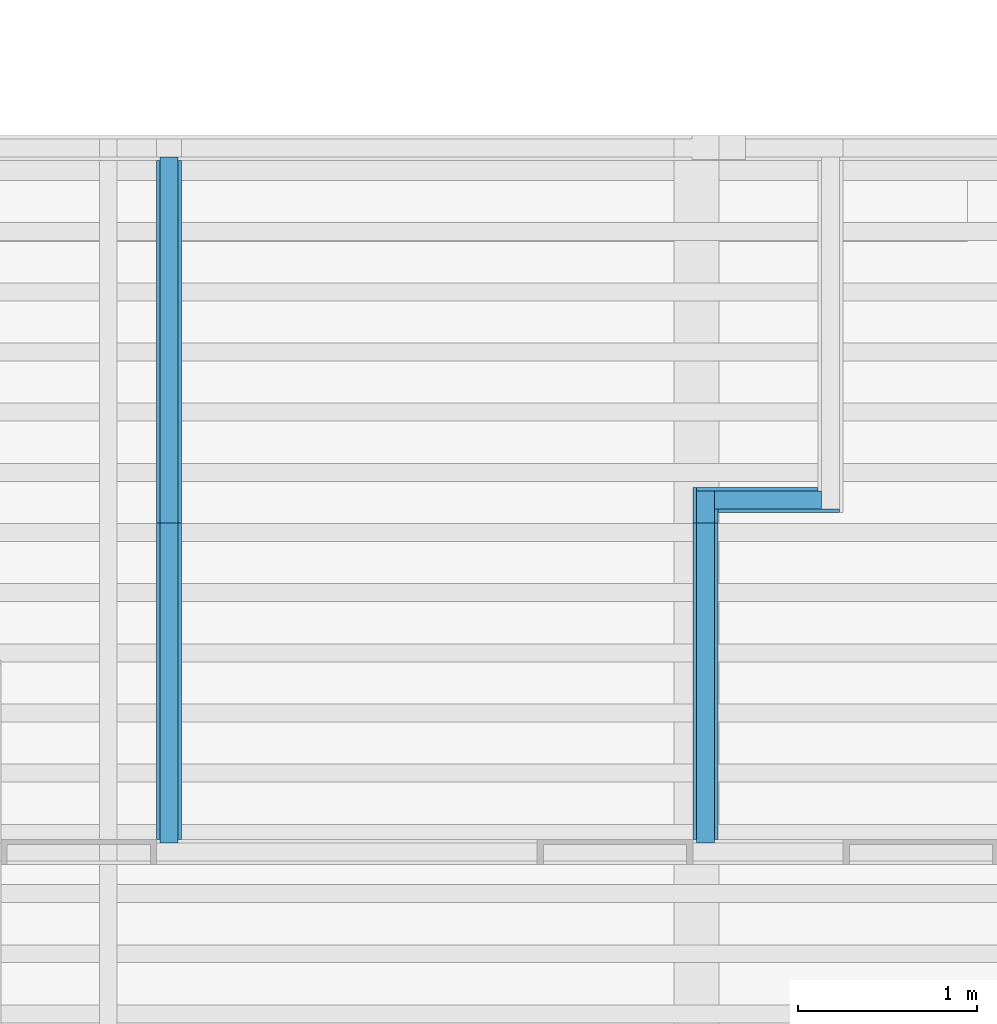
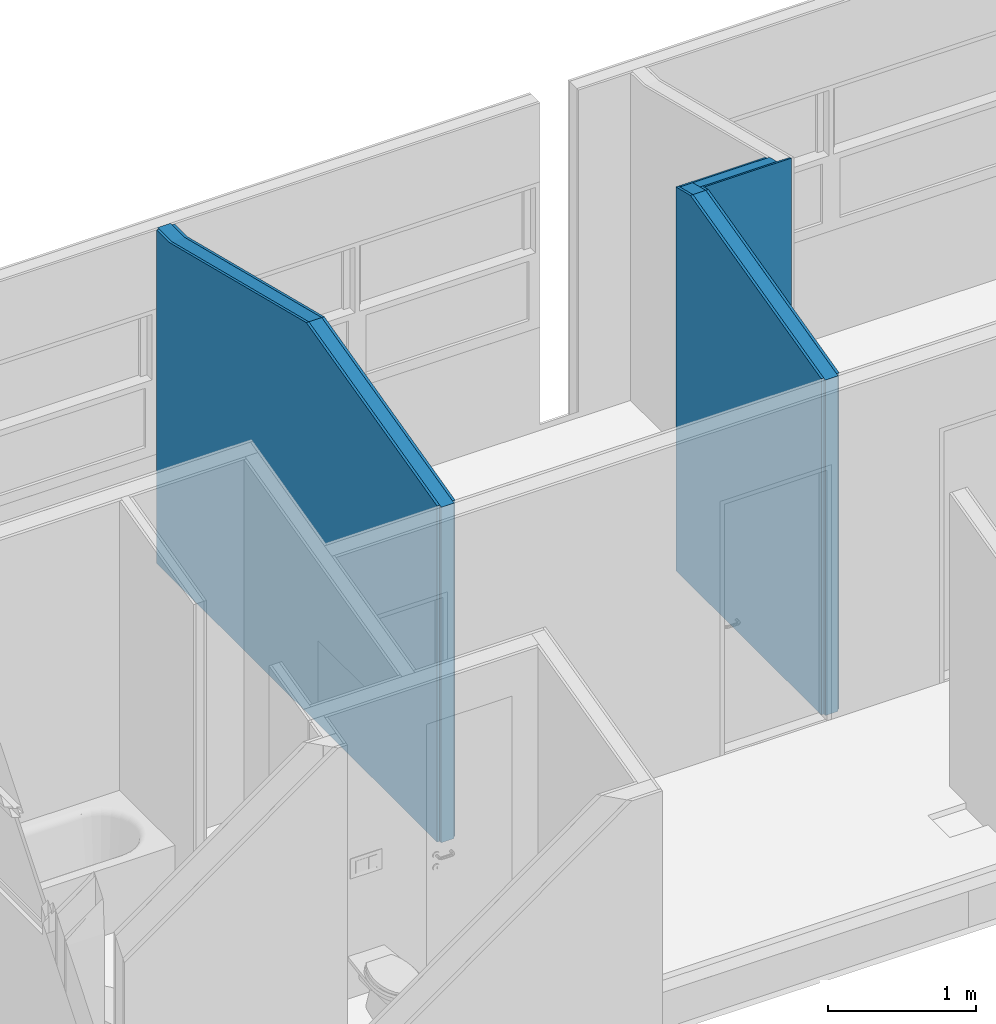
# One storey, part 10 of 13: 9 building element parts, 3 elements without a shape of their own.
"""IFC2X3 building model written with IfcOpenShell, lengths in millimetres."""

from ifc_helpers import new_model, entity, si_unit, converted_unit, derived_unit, money_unit, direction, frame, origin_with_axes, place, context, subcontext, project, spatial, polyline, outline, extrude, boolean, faceted_brep, material, type_object, element, aggregate, save


model = new_model("IFC2X3")

# Units and contexts
model_context = context("Model", 3, precision=0.01, world=origin_with_axes(), true_north=direction((0.293984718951, 0.955810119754)))
body_context = subcontext(model_context, "Body", "Model", "MODEL_VIEW")
ifc_project = project(units=[si_unit("LENGTHUNIT", "METRE", prefix="MILLI"), si_unit("AREAUNIT", "SQUARE_METRE"), si_unit("VOLUMEUNIT", "CUBIC_METRE"), converted_unit("PLANEANGLEUNIT", "DEGREE", entity("IfcPlaneAngleMeasure", 0.0174532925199), si_unit("PLANEANGLEUNIT", "RADIAN"), dimensions=[0, 0, 0, 0, 0, 0, 0]), si_unit("SOLIDANGLEUNIT", "STERADIAN"), money_unit("USD"), converted_unit("TIMEUNIT", "Year", entity("IfcTimeMeasure", 31556926.0), si_unit("TIMEUNIT", "SECOND"), dimensions=[0, 0, 1, 0, 0, 0, 0]), si_unit("MASSUNIT", "GRAM", prefix="KILO"), si_unit("THERMODYNAMICTEMPERATUREUNIT", "DEGREE_CELSIUS"), si_unit("LUMINOUSINTENSITYUNIT", "LUMEN"), si_unit("ENERGYUNIT", "JOULE", prefix="MEGA"), derived_unit("THERMALCONDUCTANCEUNIT", [(si_unit("POWERUNIT", "WATT"), 1), (si_unit("LENGTHUNIT", "METRE"), -1), (si_unit("THERMODYNAMICTEMPERATUREUNIT", "KELVIN"), -1)]), derived_unit("SPECIFICHEATCAPACITYUNIT", [(si_unit("ENERGYUNIT", "JOULE"), 1), (si_unit("MASSUNIT", "GRAM", prefix="KILO"), -1), (si_unit("THERMODYNAMICTEMPERATUREUNIT", "KELVIN"), -1)]), derived_unit("MASSDENSITYUNIT", [(si_unit("MASSUNIT", "GRAM", prefix="KILO"), 1), (si_unit("VOLUMEUNIT", "CUBIC_METRE"), -1)])], contexts=[model_context])

# Site, building, storey
site_placement = place(None, origin_with_axes())
site = spatial("IfcSite", under=ifc_project, at=site_placement, Name="Local", CompositionType="ELEMENT")
building_placement = place(site_placement, origin_with_axes())
building = spatial("IfcBuilding", under=site, at=building_placement, Name="Construção", CompositionType="ELEMENT")
storey_placement = place(building_placement, frame((0.0, 0.0, 3050.0), z_axis=(0.0, 0.0, 1.0), x_axis=(1.0, 0.0, 0.0)))
storey = spatial("IfcBuildingStorey", under=building, at=storey_placement, Name="Primeiro Pavimento", CompositionType="ELEMENT", Elevation=3050.0)

# Wall, building element parts
wall_type = type_object("IfcWallType", Name="Alvenaria Tijolo Maciço com Revestimento 14cm 140", PredefinedType="NOTDEFINED")
wall_1_placement = place(storey_placement, frame((10759.6450727, 12950.6321979, 0.0), z_axis=(0.0, 0.0, 1.0), x_axis=(0.0, -1.0, 0.0)))
wall_1 = element("IfcWall", 1, at=wall_1_placement, inside=storey, type_object=wall_type, Name="Parede")
ifc_material_1 = material(Name="Reboco (1)")
building_element_part_1_placement = place(wall_1_placement, origin_with_axes())
building_element_part_1 = element("IfcBuildingElementPart", 2, at=building_element_part_1_placement, material=ifc_material_1, Name="Reboco (1)", context=body_context, shape_type="CSG", body=[
    boolean("DIFFERENCE", boolean("DIFFERENCE", boolean("DIFFERENCE", extrude(outline(polyline([(-2.46913600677e-10, -70.0), (4070.00000001, -70.0), (4070.00000001, -50.0), (-2.46913600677e-10, -50.0), (-2.46913600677e-10, -70.0)])), origin_with_axes(), (0.0, 0.0, 1.0), 3211.87314734), faceted_brep([(2163.32569915, -49.9999999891, 3211.87314734), (310.825699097, -49.9999999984, 2749.9930219), (140.0, -49.9999999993, 2749.99302172), (140.0, -49.9999999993, 0.0), (-2.48689957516e-10, -50.0, 0.0), (-2.48689957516e-10, -50.0, 3211.87314734), (2163.32569915, -69.9999999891, 3211.87314734), (310.825699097, -69.9999999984, 2749.9930219), (140.0, -69.9999999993, 2749.99302172), (140.0, -69.9999999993, 0.0), (-2.46913600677e-10, -70.0, 0.0), (-2.46913600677e-10, -70.0, 3211.87314734), (4070.00000001, -70.0, 3211.87314734), (4070.00000001, -50.0, 3211.87314734), (3930.00000001, -69.9999999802, 2771.39177223), (3930.00000001, -49.9999999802, 2771.39177223), (3930.00000001, -69.9999999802, 0.0), (4070.00000001, -70.0, 0.0), (4070.00000001, -50.0, 0.0), (3930.00000001, -49.9999999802, 0.0)], [[[0, 1, 2, 3, 4, 5]], [[6, 7, 1, 0]], [[7, 8, 2, 1]], [[3, 2, 8, 9]], [[3, 9, 10, 4]], [[5, 4, 10, 11]], [[5, 11, 6, 12, 13, 0]], [[7, 6, 11, 10, 9, 8]], [[14, 6, 0, 15]], [[14, 16, 17, 12, 6]], [[12, 17, 18, 13]], [[15, 0, 13, 18, 19]], [[15, 19, 16, 14]], [[16, 19, 18, 17]]])), faceted_brep([(310.825699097, 50.0000000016, 2749.9930219), (120.0, 50.0000000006, 2749.99302172), (120.0, 50.0000000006, 0.0), (-2.48689957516e-10, 50.0, 0.0), (-2.48689957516e-10, 50.0, 3211.87314734), (2163.32569915, 50.0000000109, 3211.87314734), (310.825699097, -49.9999999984, 2749.9930219), (120.0, -49.9999999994, 2749.99302172), (120.0, -49.9999999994, 0.0), (-2.48689957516e-10, -50.0, 0.0), (-2.48689957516e-10, -50.0, 3211.87314734), (2163.32569915, -49.9999999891, 3211.87314734), (4070.00000001, -50.0, 3211.87314734), (4070.00000001, 50.0, 3211.87314734), (3950.00000001, -49.9999999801, 2766.40521217), (3950.00000001, -49.9999999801, 0.0), (4070.00000001, -50.0, 0.0), (4070.00000001, 50.0, 0.0), (3950.00000001, 50.0000000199, 2766.40521217), (3950.00000001, 50.0000000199, 0.0)], [[[0, 1, 2, 3, 4, 5]], [[1, 0, 6, 7]], [[2, 1, 7, 8]], [[2, 8, 9, 3]], [[4, 3, 9, 10]], [[4, 10, 11, 12, 13, 5]], [[6, 0, 5, 11]], [[6, 11, 10, 9, 8, 7]], [[14, 15, 16, 12, 11]], [[12, 16, 17, 13]], [[18, 5, 13, 17, 19]], [[18, 14, 11, 5]], [[18, 19, 15, 14]], [[15, 19, 17, 16]]])), faceted_brep([(2163.32569915, 70.0000000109, 3211.87314734), (310.825699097, 70.0000000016, 2749.9930219), (140.0, 70.0000000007, 2749.99302172), (140.0, 70.0000000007, 0.0), (-2.50466314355e-10, 70.0, 0.0), (-2.50466314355e-10, 70.0, 3211.87314734), (2163.32569915, 50.0000000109, 3211.87314734), (310.825699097, 50.0000000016, 2749.9930219), (140.0, 50.0000000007, 2749.99302174), (140.0, 50.0000000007, 0.0), (-2.48689957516e-10, 50.0, 0.0), (-2.48689957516e-10, 50.0, 3211.87314734), (4070.00000001, 50.0, 3211.87314734), (4070.00000001, 70.0, 3211.87314734), (3930.00000001, 70.0000000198, 2771.39177223), (3930.00000001, 50.0000000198, 2771.39177223), (3930.00000001, 50.0000000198, 0.0), (4070.00000001, 50.0, 0.0), (4070.00000001, 70.0, 0.0), (3930.00000001, 70.0000000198, 0.0)], [[[0, 1, 2, 3, 4, 5]], [[1, 0, 6, 7]], [[2, 1, 7, 8]], [[3, 2, 8, 9]], [[3, 9, 10, 4]], [[5, 4, 10, 11]], [[5, 11, 6, 12, 13, 0]], [[0, 14, 15, 6]], [[7, 6, 11, 10, 9, 8]], [[15, 16, 17, 12, 6]], [[12, 17, 18, 13]], [[14, 0, 13, 18, 19]], [[14, 19, 16, 15]], [[16, 19, 18, 17]]])),
])
ifc_material_2 = material(Name="Tijolo - Estrutural (1)")
building_element_part_2_placement = place(wall_1_placement, origin_with_axes())
building_element_part_2 = element("IfcBuildingElementPart", 3, at=building_element_part_2_placement, material=ifc_material_2, Name="Tijolo - Estrutural (1)", context=body_context, shape_type="CSG", body=[
    boolean("DIFFERENCE", boolean("DIFFERENCE", boolean("DIFFERENCE", extrude(outline(polyline([(-2.46913600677e-10, -50.0), (4070.00000001, -50.0), (4070.00000001, 50.0), (-2.48689957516e-10, 50.0), (-2.46913600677e-10, -50.0)])), origin_with_axes(), (0.0, 0.0, 1.0), 3211.87314734), faceted_brep([(2163.32569915, -49.9999999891, 3211.87314734), (310.825699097, -49.9999999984, 2749.9930219), (140.0, -49.9999999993, 2749.99302172), (140.0, -49.9999999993, 0.0), (-2.48689957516e-10, -50.0, 0.0), (-2.48689957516e-10, -50.0, 3211.87314734), (2163.32569915, -69.9999999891, 3211.87314734), (310.825699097, -69.9999999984, 2749.9930219), (140.0, -69.9999999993, 2749.99302172), (140.0, -69.9999999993, 0.0), (-2.46913600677e-10, -70.0, 0.0), (-2.46913600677e-10, -70.0, 3211.87314734), (4070.00000001, -70.0, 3211.87314734), (4070.00000001, -50.0, 3211.87314734), (3930.00000001, -69.9999999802, 2771.39177223), (3930.00000001, -49.9999999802, 2771.39177223), (3930.00000001, -69.9999999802, 0.0), (4070.00000001, -70.0, 0.0), (4070.00000001, -50.0, 0.0), (3930.00000001, -49.9999999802, 0.0)], [[[0, 1, 2, 3, 4, 5]], [[6, 7, 1, 0]], [[7, 8, 2, 1]], [[3, 2, 8, 9]], [[3, 9, 10, 4]], [[5, 4, 10, 11]], [[5, 11, 6, 12, 13, 0]], [[7, 6, 11, 10, 9, 8]], [[14, 6, 0, 15]], [[14, 16, 17, 12, 6]], [[12, 17, 18, 13]], [[15, 0, 13, 18, 19]], [[15, 19, 16, 14]], [[16, 19, 18, 17]]])), faceted_brep([(310.825699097, 50.0000000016, 2749.9930219), (120.0, 50.0000000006, 2749.99302172), (120.0, 50.0000000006, 0.0), (-2.48689957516e-10, 50.0, 0.0), (-2.48689957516e-10, 50.0, 3211.87314734), (2163.32569915, 50.0000000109, 3211.87314734), (310.825699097, -49.9999999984, 2749.9930219), (120.0, -49.9999999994, 2749.99302172), (120.0, -49.9999999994, 0.0), (-2.48689957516e-10, -50.0, 0.0), (-2.48689957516e-10, -50.0, 3211.87314734), (2163.32569915, -49.9999999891, 3211.87314734), (4070.00000001, -50.0, 3211.87314734), (4070.00000001, 50.0, 3211.87314734), (3950.00000001, -49.9999999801, 2766.40521217), (3950.00000001, -49.9999999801, 0.0), (4070.00000001, -50.0, 0.0), (4070.00000001, 50.0, 0.0), (3950.00000001, 50.0000000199, 2766.40521217), (3950.00000001, 50.0000000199, 0.0)], [[[0, 1, 2, 3, 4, 5]], [[1, 0, 6, 7]], [[2, 1, 7, 8]], [[2, 8, 9, 3]], [[4, 3, 9, 10]], [[4, 10, 11, 12, 13, 5]], [[6, 0, 5, 11]], [[6, 11, 10, 9, 8, 7]], [[14, 15, 16, 12, 11]], [[12, 16, 17, 13]], [[18, 5, 13, 17, 19]], [[18, 14, 11, 5]], [[18, 19, 15, 14]], [[15, 19, 17, 16]]])), faceted_brep([(2163.32569915, 70.0000000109, 3211.87314734), (310.825699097, 70.0000000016, 2749.9930219), (140.0, 70.0000000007, 2749.99302172), (140.0, 70.0000000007, 0.0), (-2.50466314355e-10, 70.0, 0.0), (-2.50466314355e-10, 70.0, 3211.87314734), (2163.32569915, 50.0000000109, 3211.87314734), (310.825699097, 50.0000000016, 2749.9930219), (140.0, 50.0000000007, 2749.99302174), (140.0, 50.0000000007, 0.0), (-2.48689957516e-10, 50.0, 0.0), (-2.48689957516e-10, 50.0, 3211.87314734), (4070.00000001, 50.0, 3211.87314734), (4070.00000001, 70.0, 3211.87314734), (3930.00000001, 70.0000000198, 2771.39177223), (3930.00000001, 50.0000000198, 2771.39177223), (3930.00000001, 50.0000000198, 0.0), (4070.00000001, 50.0, 0.0), (4070.00000001, 70.0, 0.0), (3930.00000001, 70.0000000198, 0.0)], [[[0, 1, 2, 3, 4, 5]], [[1, 0, 6, 7]], [[2, 1, 7, 8]], [[3, 2, 8, 9]], [[3, 9, 10, 4]], [[5, 4, 10, 11]], [[5, 11, 6, 12, 13, 0]], [[0, 14, 15, 6]], [[7, 6, 11, 10, 9, 8]], [[15, 16, 17, 12, 6]], [[12, 17, 18, 13]], [[14, 0, 13, 18, 19]], [[14, 19, 16, 15]], [[16, 19, 18, 17]]])),
])
building_element_part_3_placement = place(wall_1_placement, origin_with_axes())
building_element_part_3 = element("IfcBuildingElementPart", 4, at=building_element_part_3_placement, material=ifc_material_1, Name="Reboco (1)", context=body_context, shape_type="CSG", body=[
    boolean("DIFFERENCE", boolean("DIFFERENCE", boolean("DIFFERENCE", extrude(outline(polyline([(-2.48689957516e-10, 50.0), (4070.00000001, 50.0), (4070.00000001, 70.0), (-2.48689957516e-10, 70.0), (-2.48689957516e-10, 50.0)])), origin_with_axes(), (0.0, 0.0, 1.0), 3211.87314734), faceted_brep([(2163.32569915, -49.9999999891, 3211.87314734), (310.825699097, -49.9999999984, 2749.9930219), (140.0, -49.9999999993, 2749.99302172), (140.0, -49.9999999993, 0.0), (-2.48689957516e-10, -50.0, 0.0), (-2.48689957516e-10, -50.0, 3211.87314734), (2163.32569915, -69.9999999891, 3211.87314734), (310.825699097, -69.9999999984, 2749.9930219), (140.0, -69.9999999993, 2749.99302172), (140.0, -69.9999999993, 0.0), (-2.46913600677e-10, -70.0, 0.0), (-2.46913600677e-10, -70.0, 3211.87314734), (4070.00000001, -70.0, 3211.87314734), (4070.00000001, -50.0, 3211.87314734), (3930.00000001, -69.9999999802, 2771.39177223), (3930.00000001, -49.9999999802, 2771.39177223), (3930.00000001, -69.9999999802, 0.0), (4070.00000001, -70.0, 0.0), (4070.00000001, -50.0, 0.0), (3930.00000001, -49.9999999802, 0.0)], [[[0, 1, 2, 3, 4, 5]], [[6, 7, 1, 0]], [[7, 8, 2, 1]], [[3, 2, 8, 9]], [[3, 9, 10, 4]], [[5, 4, 10, 11]], [[5, 11, 6, 12, 13, 0]], [[7, 6, 11, 10, 9, 8]], [[14, 6, 0, 15]], [[14, 16, 17, 12, 6]], [[12, 17, 18, 13]], [[15, 0, 13, 18, 19]], [[15, 19, 16, 14]], [[16, 19, 18, 17]]])), faceted_brep([(310.825699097, 50.0000000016, 2749.9930219), (120.0, 50.0000000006, 2749.99302172), (120.0, 50.0000000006, 0.0), (-2.48689957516e-10, 50.0, 0.0), (-2.48689957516e-10, 50.0, 3211.87314734), (2163.32569915, 50.0000000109, 3211.87314734), (310.825699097, -49.9999999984, 2749.9930219), (120.0, -49.9999999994, 2749.99302172), (120.0, -49.9999999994, 0.0), (-2.48689957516e-10, -50.0, 0.0), (-2.48689957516e-10, -50.0, 3211.87314734), (2163.32569915, -49.9999999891, 3211.87314734), (4070.00000001, -50.0, 3211.87314734), (4070.00000001, 50.0, 3211.87314734), (3950.00000001, -49.9999999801, 2766.40521217), (3950.00000001, -49.9999999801, 0.0), (4070.00000001, -50.0, 0.0), (4070.00000001, 50.0, 0.0), (3950.00000001, 50.0000000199, 2766.40521217), (3950.00000001, 50.0000000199, 0.0)], [[[0, 1, 2, 3, 4, 5]], [[1, 0, 6, 7]], [[2, 1, 7, 8]], [[2, 8, 9, 3]], [[4, 3, 9, 10]], [[4, 10, 11, 12, 13, 5]], [[6, 0, 5, 11]], [[6, 11, 10, 9, 8, 7]], [[14, 15, 16, 12, 11]], [[12, 16, 17, 13]], [[18, 5, 13, 17, 19]], [[18, 14, 11, 5]], [[18, 19, 15, 14]], [[15, 19, 17, 16]]])), faceted_brep([(2163.32569915, 70.0000000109, 3211.87314734), (310.825699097, 70.0000000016, 2749.9930219), (140.0, 70.0000000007, 2749.99302172), (140.0, 70.0000000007, 0.0), (-2.50466314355e-10, 70.0, 0.0), (-2.50466314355e-10, 70.0, 3211.87314734), (2163.32569915, 50.0000000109, 3211.87314734), (310.825699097, 50.0000000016, 2749.9930219), (140.0, 50.0000000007, 2749.99302174), (140.0, 50.0000000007, 0.0), (-2.48689957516e-10, 50.0, 0.0), (-2.48689957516e-10, 50.0, 3211.87314734), (4070.00000001, 50.0, 3211.87314734), (4070.00000001, 70.0, 3211.87314734), (3930.00000001, 70.0000000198, 2771.39177223), (3930.00000001, 50.0000000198, 2771.39177223), (3930.00000001, 50.0000000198, 0.0), (4070.00000001, 50.0, 0.0), (4070.00000001, 70.0, 0.0), (3930.00000001, 70.0000000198, 0.0)], [[[0, 1, 2, 3, 4, 5]], [[1, 0, 6, 7]], [[2, 1, 7, 8]], [[3, 2, 8, 9]], [[3, 9, 10, 4]], [[5, 4, 10, 11]], [[5, 11, 6, 12, 13, 0]], [[0, 14, 15, 6]], [[7, 6, 11, 10, 9, 8]], [[15, 16, 17, 12, 6]], [[12, 17, 18, 13]], [[14, 0, 13, 18, 19]], [[14, 19, 16, 15]], [[16, 19, 18, 17]]])),
])
aggregate(wall_1, [building_element_part_1, building_element_part_2, building_element_part_3])

wall_2_placement = place(storey_placement, frame((13754.6450727, 10915.6321979, 0.0), z_axis=(0.0, 0.0, 1.0), x_axis=(0.0, -1.0, 0.0)))
wall_2 = element("IfcWall", 5, at=wall_2_placement, inside=storey, type_object=wall_type, Name="Parede")
building_element_part_4_placement = place(wall_2_placement, origin_with_axes())
building_element_part_4 = element("IfcBuildingElementPart", 6, at=building_element_part_4_placement, material=ifc_material_1, Name="Reboco (1)", context=body_context, shape_type="CSG", body=[
    boolean("DIFFERENCE", boolean("DIFFERENCE", boolean("DIFFERENCE", extrude(outline(polyline([(-70.0, -70.0), (2035.0, -70.0), (2035.0, -50.0), (-70.0, -50.0), (-70.0, -70.0)])), origin_with_axes(), (0.0, 0.0, 1.0), 3211.87314734), faceted_brep([(128.325699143, -50.0, 3211.87314734), (-70.0, -50.0, 3162.42499686), (-70.0, -50.0, 3211.87314734), (-70.0, -70.0, 3162.42499686), (128.325699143, -70.0, 3211.87314734), (-70.0, -70.0, 3211.87314734), (2035.0, -70.0, 3211.87314734), (2035.0, -50.0, 3211.87314734), (1895.0, -70.0, 2771.39177223), (1895.0, -50.0, 2771.39177223), (1895.0, -70.0, 0.0), (2035.0, -70.0, 0.0), (2035.0, -50.0, 0.0), (1895.0, -50.0, 0.0)], [[[0, 1, 2]], [[3, 1, 0, 4]], [[1, 3, 5, 2]], [[2, 5, 4, 6, 7, 0]], [[8, 4, 0, 9]], [[3, 4, 5]], [[8, 10, 11, 6, 4]], [[6, 11, 12, 7]], [[9, 0, 7, 12, 13]], [[9, 13, 10, 8]], [[10, 13, 12, 11]]])), faceted_brep([(128.325699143, 50.0, 3211.87314734), (-50.0, 50.0, 3167.41155691), (-50.0, 50.0, 0.0), (-70.0, 50.0, 0.0), (-70.0, 50.0, 3211.87314734), (128.325699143, -50.0, 3211.87314734), (-50.0, -50.0, 3167.41155691), (-50.0, -50.0, 0.0), (-70.0, -50.0, 0.0), (-70.0, -50.0, 3211.87314734), (2035.0, -50.0, 3211.87314734), (2035.0, 50.0, 3211.87314734), (1915.0, 50.0, 2766.40521217), (1915.0, -50.0, 2766.40521217), (1915.0, -50.0, 0.0), (2035.0, -50.0, 0.0), (2035.0, 50.0, 0.0), (1915.0, 50.0, 0.0)], [[[0, 1, 2, 3, 4]], [[1, 0, 5, 6]], [[2, 1, 6, 7]], [[2, 7, 8, 3]], [[4, 3, 8, 9]], [[4, 9, 5, 10, 11, 0]], [[12, 13, 5, 0]], [[6, 5, 9, 8, 7]], [[13, 14, 15, 10, 5]], [[10, 15, 16, 11]], [[12, 0, 11, 16, 17]], [[12, 17, 14, 13]], [[14, 17, 16, 15]]])), faceted_brep([(50.0, 70.0, 3192.3443572), (50.0, 70.0, 0.0), (-70.0, 70.0, 0.0), (-70.0, 70.0, 3211.87314734), (128.325699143, 70.0, 3211.87314734), (50.0, 50.0, 3192.3443572), (50.0, 50.0, 0.0), (-70.0, 50.0, 0.0), (-70.0, 50.0, 3211.87314734), (128.325699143, 50.0, 3211.87314734), (2035.0, 50.0, 3211.87314734), (2035.0, 70.0, 3211.87314734), (1895.0, 50.0, 2771.39177223), (1895.0, 50.0, 0.0), (2035.0, 50.0, 0.0), (2035.0, 70.0, 0.0), (1895.0, 70.0, 2771.39177223), (1895.0, 70.0, 0.0)], [[[0, 1, 2, 3, 4]], [[1, 0, 5, 6]], [[1, 6, 7, 2]], [[3, 2, 7, 8]], [[3, 8, 9, 10, 11, 4]], [[0, 4, 9, 5]], [[5, 9, 8, 7, 6]], [[12, 13, 14, 10, 9]], [[10, 14, 15, 11]], [[16, 4, 11, 15, 17]], [[4, 16, 12, 9]], [[16, 17, 13, 12]], [[13, 17, 15, 14]]])),
])
building_element_part_5_placement = place(wall_2_placement, origin_with_axes())
building_element_part_5 = element("IfcBuildingElementPart", 7, at=building_element_part_5_placement, material=ifc_material_2, Name="Tijolo - Estrutural (1)", context=body_context, shape_type="CSG", body=[
    boolean("DIFFERENCE", boolean("DIFFERENCE", boolean("DIFFERENCE", extrude(outline(polyline([(-70.0, -50.0), (2035.0, -50.0), (2035.0, 50.0), (-70.0, 50.0), (-70.0, -50.0)])), origin_with_axes(), (0.0, 0.0, 1.0), 3211.87314734), faceted_brep([(128.325699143, -50.0, 3211.87314734), (-70.0, -50.0, 3162.42499686), (-70.0, -50.0, 3211.87314734), (-70.0, -70.0, 3162.42499686), (128.325699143, -70.0, 3211.87314734), (-70.0, -70.0, 3211.87314734), (2035.0, -70.0, 3211.87314734), (2035.0, -50.0, 3211.87314734), (1895.0, -70.0, 2771.39177223), (1895.0, -50.0, 2771.39177223), (1895.0, -70.0, 0.0), (2035.0, -70.0, 0.0), (2035.0, -50.0, 0.0), (1895.0, -50.0, 0.0)], [[[0, 1, 2]], [[3, 1, 0, 4]], [[1, 3, 5, 2]], [[2, 5, 4, 6, 7, 0]], [[8, 4, 0, 9]], [[3, 4, 5]], [[8, 10, 11, 6, 4]], [[6, 11, 12, 7]], [[9, 0, 7, 12, 13]], [[9, 13, 10, 8]], [[10, 13, 12, 11]]])), faceted_brep([(128.325699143, 50.0, 3211.87314734), (-50.0, 50.0, 3167.41155691), (-50.0, 50.0, 0.0), (-70.0, 50.0, 0.0), (-70.0, 50.0, 3211.87314734), (128.325699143, -50.0, 3211.87314734), (-50.0, -50.0, 3167.41155691), (-50.0, -50.0, 0.0), (-70.0, -50.0, 0.0), (-70.0, -50.0, 3211.87314734), (2035.0, -50.0, 3211.87314734), (2035.0, 50.0, 3211.87314734), (1915.0, 50.0, 2766.40521217), (1915.0, -50.0, 2766.40521217), (1915.0, -50.0, 0.0), (2035.0, -50.0, 0.0), (2035.0, 50.0, 0.0), (1915.0, 50.0, 0.0)], [[[0, 1, 2, 3, 4]], [[1, 0, 5, 6]], [[2, 1, 6, 7]], [[2, 7, 8, 3]], [[4, 3, 8, 9]], [[4, 9, 5, 10, 11, 0]], [[12, 13, 5, 0]], [[6, 5, 9, 8, 7]], [[13, 14, 15, 10, 5]], [[10, 15, 16, 11]], [[12, 0, 11, 16, 17]], [[12, 17, 14, 13]], [[14, 17, 16, 15]]])), faceted_brep([(50.0, 70.0, 3192.3443572), (50.0, 70.0, 0.0), (-70.0, 70.0, 0.0), (-70.0, 70.0, 3211.87314734), (128.325699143, 70.0, 3211.87314734), (50.0, 50.0, 3192.3443572), (50.0, 50.0, 0.0), (-70.0, 50.0, 0.0), (-70.0, 50.0, 3211.87314734), (128.325699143, 50.0, 3211.87314734), (2035.0, 50.0, 3211.87314734), (2035.0, 70.0, 3211.87314734), (1895.0, 50.0, 2771.39177223), (1895.0, 50.0, 0.0), (2035.0, 50.0, 0.0), (2035.0, 70.0, 0.0), (1895.0, 70.0, 2771.39177223), (1895.0, 70.0, 0.0)], [[[0, 1, 2, 3, 4]], [[1, 0, 5, 6]], [[1, 6, 7, 2]], [[3, 2, 7, 8]], [[3, 8, 9, 10, 11, 4]], [[0, 4, 9, 5]], [[5, 9, 8, 7, 6]], [[12, 13, 14, 10, 9]], [[10, 14, 15, 11]], [[16, 4, 11, 15, 17]], [[4, 16, 12, 9]], [[16, 17, 13, 12]], [[13, 17, 15, 14]]])),
])
building_element_part_6_placement = place(wall_2_placement, origin_with_axes())
building_element_part_6 = element("IfcBuildingElementPart", 8, at=building_element_part_6_placement, material=ifc_material_1, Name="Reboco (1)", context=body_context, shape_type="CSG", body=[
    boolean("DIFFERENCE", boolean("DIFFERENCE", boolean("DIFFERENCE", extrude(outline(polyline([(-70.0, 50.0), (2035.0, 50.0), (2035.0, 70.0), (-70.0, 70.0), (-70.0, 50.0)])), origin_with_axes(), (0.0, 0.0, 1.0), 3211.87314734), faceted_brep([(128.325699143, -50.0, 3211.87314734), (-70.0, -50.0, 3162.42499686), (-70.0, -50.0, 3211.87314734), (-70.0, -70.0, 3162.42499686), (128.325699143, -70.0, 3211.87314734), (-70.0, -70.0, 3211.87314734), (2035.0, -70.0, 3211.87314734), (2035.0, -50.0, 3211.87314734), (1895.0, -70.0, 2771.39177223), (1895.0, -50.0, 2771.39177223), (1895.0, -70.0, 0.0), (2035.0, -70.0, 0.0), (2035.0, -50.0, 0.0), (1895.0, -50.0, 0.0)], [[[0, 1, 2]], [[3, 1, 0, 4]], [[1, 3, 5, 2]], [[2, 5, 4, 6, 7, 0]], [[8, 4, 0, 9]], [[3, 4, 5]], [[8, 10, 11, 6, 4]], [[6, 11, 12, 7]], [[9, 0, 7, 12, 13]], [[9, 13, 10, 8]], [[10, 13, 12, 11]]])), faceted_brep([(128.325699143, 50.0, 3211.87314734), (-50.0, 50.0, 3167.41155691), (-50.0, 50.0, 0.0), (-70.0, 50.0, 0.0), (-70.0, 50.0, 3211.87314734), (128.325699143, -50.0, 3211.87314734), (-50.0, -50.0, 3167.41155691), (-50.0, -50.0, 0.0), (-70.0, -50.0, 0.0), (-70.0, -50.0, 3211.87314734), (2035.0, -50.0, 3211.87314734), (2035.0, 50.0, 3211.87314734), (1915.0, 50.0, 2766.40521217), (1915.0, -50.0, 2766.40521217), (1915.0, -50.0, 0.0), (2035.0, -50.0, 0.0), (2035.0, 50.0, 0.0), (1915.0, 50.0, 0.0)], [[[0, 1, 2, 3, 4]], [[1, 0, 5, 6]], [[2, 1, 6, 7]], [[2, 7, 8, 3]], [[4, 3, 8, 9]], [[4, 9, 5, 10, 11, 0]], [[12, 13, 5, 0]], [[6, 5, 9, 8, 7]], [[13, 14, 15, 10, 5]], [[10, 15, 16, 11]], [[12, 0, 11, 16, 17]], [[12, 17, 14, 13]], [[14, 17, 16, 15]]])), faceted_brep([(50.0, 70.0, 3192.3443572), (50.0, 70.0, 0.0), (-70.0, 70.0, 0.0), (-70.0, 70.0, 3211.87314734), (128.325699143, 70.0, 3211.87314734), (50.0, 50.0, 3192.3443572), (50.0, 50.0, 0.0), (-70.0, 50.0, 0.0), (-70.0, 50.0, 3211.87314734), (128.325699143, 50.0, 3211.87314734), (2035.0, 50.0, 3211.87314734), (2035.0, 70.0, 3211.87314734), (1895.0, 50.0, 2771.39177223), (1895.0, 50.0, 0.0), (2035.0, 50.0, 0.0), (2035.0, 70.0, 0.0), (1895.0, 70.0, 2771.39177223), (1895.0, 70.0, 0.0)], [[[0, 1, 2, 3, 4]], [[1, 0, 5, 6]], [[1, 6, 7, 2]], [[3, 2, 7, 8]], [[3, 8, 9, 10, 11, 4]], [[0, 4, 9, 5]], [[5, 9, 8, 7, 6]], [[12, 13, 14, 10, 9]], [[10, 14, 15, 11]], [[16, 4, 11, 15, 17]], [[4, 16, 12, 9]], [[16, 17, 13, 12]], [[13, 17, 15, 14]]])),
])
aggregate(wall_2, [building_element_part_4, building_element_part_5, building_element_part_6])

wall_3_placement = place(storey_placement, frame((13754.6450727, 10915.6321979, 0.0), z_axis=(0.0, 0.0, 1.0), x_axis=(1.0, 0.0, 0.0)))
wall_3 = element("IfcWall", 9, at=wall_3_placement, inside=storey, type_object=wall_type, Name="Parede")
building_element_part_7_placement = place(wall_3_placement, origin_with_axes())
building_element_part_7 = element("IfcBuildingElementPart", 10, at=building_element_part_7_placement, material=ifc_material_1, Name="Reboco (1)", context=body_context, shape_type="CSG", body=[
    boolean("DIFFERENCE", boolean("DIFFERENCE", boolean("DIFFERENCE", extrude(outline(polyline([(-70.0, -70.0), (770.0, -70.0), (770.0, -50.0), (-70.0, -50.0), (-70.0, -70.0)])), origin_with_axes(), (0.0, 0.0, 1.0), 3211.87314734), faceted_brep([(70.0, -50.0, 3192.3443572), (70.0, -50.0, 0.0), (-70.0, -50.0, 0.0), (-70.0, -50.0, 3211.87314734), (770.0, -50.0, 3211.87314734), (770.0, -50.0, 0.0), (750.0, -50.0, 0.0), (750.0, -50.0, 3192.3443572), (70.0, -70.0, 3197.33091725), (70.0, -70.0, 0.0), (-70.0, -70.0, 0.0), (-70.0, -70.0, 3211.87314734), (770.0, -70.0, 3211.87314734), (770.0, -70.0, 0.0), (750.0, -70.0, 0.0), (750.0, -70.0, 3197.33091725)], [[[0, 1, 2, 3, 4, 5, 6, 7]], [[1, 0, 8, 9]], [[1, 9, 10, 2]], [[3, 2, 10, 11]], [[3, 11, 12, 4]], [[12, 13, 5, 4]], [[14, 6, 5, 13]], [[7, 6, 14, 15]], [[7, 15, 8, 0]], [[15, 14, 13, 12, 11, 10, 9, 8]]])), faceted_brep([(50.0, 50.0, 3167.41155691), (50.0, 50.0, 0.0), (-70.0, 50.0, 0.0), (-70.0, 50.0, 3211.87314734), (770.0, 50.0, 3211.87314734), (770.0, 50.0, 0.0), (650.0, 50.0, 0.0), (650.0, 50.0, 3167.41155691), (50.0, -50.0, 3192.3443572), (50.0, -50.0, 0.0), (-70.0, -50.0, 0.0), (-70.0, -50.0, 3211.87314734), (770.0, -50.0, 3211.87314734), (770.0, -50.0, 0.0), (650.0, -50.0, 0.0), (650.0, -50.0, 3192.3443572)], [[[0, 1, 2, 3, 4, 5, 6, 7]], [[1, 0, 8, 9]], [[1, 9, 10, 2]], [[3, 2, 10, 11]], [[3, 11, 12, 4]], [[12, 13, 5, 4]], [[14, 6, 5, 13]], [[7, 6, 14, 15]], [[7, 15, 8, 0]], [[15, 14, 13, 12, 11, 10, 9, 8]]])), faceted_brep([(-50.0, 70.0, 3162.42499686), (-50.0, 70.0, 0.0), (-70.0, 70.0, 0.0), (-70.0, 70.0, 3211.87314734), (770.0, 70.0, 3211.87314734), (770.0, 70.0, 0.0), (630.0, 70.0, 0.0), (630.0, 70.0, 3162.42499686), (-50.0, 50.0, 3167.41155691), (-50.0, 50.0, 0.0), (-70.0, 50.0, 0.0), (-70.0, 50.0, 3211.87314734), (770.0, 50.0, 3211.87314734), (770.0, 50.0, 0.0), (630.0, 50.0, 0.0), (630.0, 50.0, 3167.41155691)], [[[0, 1, 2, 3, 4, 5, 6, 7]], [[1, 0, 8, 9]], [[1, 9, 10, 2]], [[3, 2, 10, 11]], [[3, 11, 12, 4]], [[12, 13, 5, 4]], [[14, 6, 5, 13]], [[7, 6, 14, 15]], [[0, 7, 15, 8]], [[15, 14, 13, 12, 11, 10, 9, 8]]])),
])
building_element_part_8_placement = place(wall_3_placement, origin_with_axes())
building_element_part_8 = element("IfcBuildingElementPart", 11, at=building_element_part_8_placement, material=ifc_material_2, Name="Tijolo - Estrutural (1)", context=body_context, shape_type="CSG", body=[
    boolean("DIFFERENCE", boolean("DIFFERENCE", boolean("DIFFERENCE", extrude(outline(polyline([(-70.0, -50.0), (770.0, -50.0), (770.0, 50.0), (-70.0, 50.0), (-70.0, -50.0)])), origin_with_axes(), (0.0, 0.0, 1.0), 3211.87314734), faceted_brep([(70.0, -50.0, 3192.3443572), (70.0, -50.0, 0.0), (-70.0, -50.0, 0.0), (-70.0, -50.0, 3211.87314734), (770.0, -50.0, 3211.87314734), (770.0, -50.0, 0.0), (750.0, -50.0, 0.0), (750.0, -50.0, 3192.3443572), (70.0, -70.0, 3197.33091725), (70.0, -70.0, 0.0), (-70.0, -70.0, 0.0), (-70.0, -70.0, 3211.87314734), (770.0, -70.0, 3211.87314734), (770.0, -70.0, 0.0), (750.0, -70.0, 0.0), (750.0, -70.0, 3197.33091725)], [[[0, 1, 2, 3, 4, 5, 6, 7]], [[1, 0, 8, 9]], [[1, 9, 10, 2]], [[3, 2, 10, 11]], [[3, 11, 12, 4]], [[12, 13, 5, 4]], [[14, 6, 5, 13]], [[7, 6, 14, 15]], [[7, 15, 8, 0]], [[15, 14, 13, 12, 11, 10, 9, 8]]])), faceted_brep([(50.0, 50.0, 3167.41155691), (50.0, 50.0, 0.0), (-70.0, 50.0, 0.0), (-70.0, 50.0, 3211.87314734), (770.0, 50.0, 3211.87314734), (770.0, 50.0, 0.0), (650.0, 50.0, 0.0), (650.0, 50.0, 3167.41155691), (50.0, -50.0, 3192.3443572), (50.0, -50.0, 0.0), (-70.0, -50.0, 0.0), (-70.0, -50.0, 3211.87314734), (770.0, -50.0, 3211.87314734), (770.0, -50.0, 0.0), (650.0, -50.0, 0.0), (650.0, -50.0, 3192.3443572)], [[[0, 1, 2, 3, 4, 5, 6, 7]], [[1, 0, 8, 9]], [[1, 9, 10, 2]], [[3, 2, 10, 11]], [[3, 11, 12, 4]], [[12, 13, 5, 4]], [[14, 6, 5, 13]], [[7, 6, 14, 15]], [[7, 15, 8, 0]], [[15, 14, 13, 12, 11, 10, 9, 8]]])), faceted_brep([(-50.0, 70.0, 3162.42499686), (-50.0, 70.0, 0.0), (-70.0, 70.0, 0.0), (-70.0, 70.0, 3211.87314734), (770.0, 70.0, 3211.87314734), (770.0, 70.0, 0.0), (630.0, 70.0, 0.0), (630.0, 70.0, 3162.42499686), (-50.0, 50.0, 3167.41155691), (-50.0, 50.0, 0.0), (-70.0, 50.0, 0.0), (-70.0, 50.0, 3211.87314734), (770.0, 50.0, 3211.87314734), (770.0, 50.0, 0.0), (630.0, 50.0, 0.0), (630.0, 50.0, 3167.41155691)], [[[0, 1, 2, 3, 4, 5, 6, 7]], [[1, 0, 8, 9]], [[1, 9, 10, 2]], [[3, 2, 10, 11]], [[3, 11, 12, 4]], [[12, 13, 5, 4]], [[14, 6, 5, 13]], [[7, 6, 14, 15]], [[0, 7, 15, 8]], [[15, 14, 13, 12, 11, 10, 9, 8]]])),
])
building_element_part_9_placement = place(wall_3_placement, origin_with_axes())
building_element_part_9 = element("IfcBuildingElementPart", 12, at=building_element_part_9_placement, material=ifc_material_1, Name="Reboco (1)", context=body_context, shape_type="CSG", body=[
    boolean("DIFFERENCE", boolean("DIFFERENCE", boolean("DIFFERENCE", extrude(outline(polyline([(-70.0, 50.0), (770.0, 50.0), (770.0, 70.0), (-70.0, 70.0), (-70.0, 50.0)])), origin_with_axes(), (0.0, 0.0, 1.0), 3211.87314734), faceted_brep([(70.0, -50.0, 3192.3443572), (70.0, -50.0, 0.0), (-70.0, -50.0, 0.0), (-70.0, -50.0, 3211.87314734), (770.0, -50.0, 3211.87314734), (770.0, -50.0, 0.0), (750.0, -50.0, 0.0), (750.0, -50.0, 3192.3443572), (70.0, -70.0, 3197.33091725), (70.0, -70.0, 0.0), (-70.0, -70.0, 0.0), (-70.0, -70.0, 3211.87314734), (770.0, -70.0, 3211.87314734), (770.0, -70.0, 0.0), (750.0, -70.0, 0.0), (750.0, -70.0, 3197.33091725)], [[[0, 1, 2, 3, 4, 5, 6, 7]], [[1, 0, 8, 9]], [[1, 9, 10, 2]], [[3, 2, 10, 11]], [[3, 11, 12, 4]], [[12, 13, 5, 4]], [[14, 6, 5, 13]], [[7, 6, 14, 15]], [[7, 15, 8, 0]], [[15, 14, 13, 12, 11, 10, 9, 8]]])), faceted_brep([(50.0, 50.0, 3167.41155691), (50.0, 50.0, 0.0), (-70.0, 50.0, 0.0), (-70.0, 50.0, 3211.87314734), (770.0, 50.0, 3211.87314734), (770.0, 50.0, 0.0), (650.0, 50.0, 0.0), (650.0, 50.0, 3167.41155691), (50.0, -50.0, 3192.3443572), (50.0, -50.0, 0.0), (-70.0, -50.0, 0.0), (-70.0, -50.0, 3211.87314734), (770.0, -50.0, 3211.87314734), (770.0, -50.0, 0.0), (650.0, -50.0, 0.0), (650.0, -50.0, 3192.3443572)], [[[0, 1, 2, 3, 4, 5, 6, 7]], [[1, 0, 8, 9]], [[1, 9, 10, 2]], [[3, 2, 10, 11]], [[3, 11, 12, 4]], [[12, 13, 5, 4]], [[14, 6, 5, 13]], [[7, 6, 14, 15]], [[7, 15, 8, 0]], [[15, 14, 13, 12, 11, 10, 9, 8]]])), faceted_brep([(-50.0, 70.0, 3162.42499686), (-50.0, 70.0, 0.0), (-70.0, 70.0, 0.0), (-70.0, 70.0, 3211.87314734), (770.0, 70.0, 3211.87314734), (770.0, 70.0, 0.0), (630.0, 70.0, 0.0), (630.0, 70.0, 3162.42499686), (-50.0, 50.0, 3167.41155691), (-50.0, 50.0, 0.0), (-70.0, 50.0, 0.0), (-70.0, 50.0, 3211.87314734), (770.0, 50.0, 3211.87314734), (770.0, 50.0, 0.0), (630.0, 50.0, 0.0), (630.0, 50.0, 3167.41155691)], [[[0, 1, 2, 3, 4, 5, 6, 7]], [[1, 0, 8, 9]], [[1, 9, 10, 2]], [[3, 2, 10, 11]], [[3, 11, 12, 4]], [[12, 13, 5, 4]], [[14, 6, 5, 13]], [[7, 6, 14, 15]], [[0, 7, 15, 8]], [[15, 14, 13, 12, 11, 10, 9, 8]]])),
])
aggregate(wall_3, [building_element_part_7, building_element_part_8, building_element_part_9])

save(model, "model.ifc")
